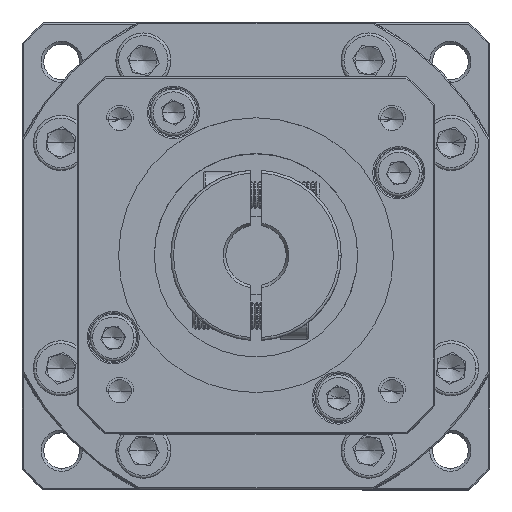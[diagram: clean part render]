
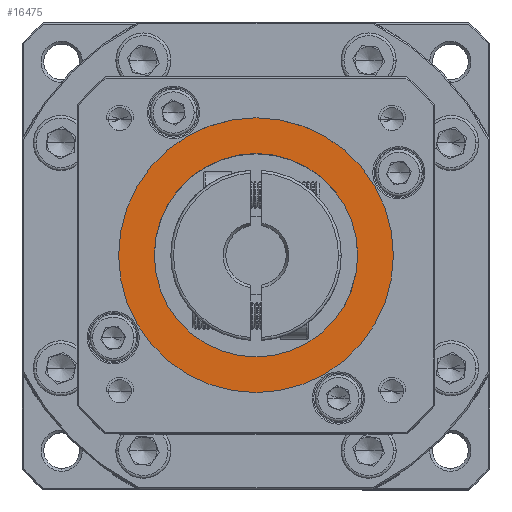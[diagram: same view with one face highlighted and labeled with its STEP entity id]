
A CAD part, top view. The second image highlights one B-rep face of the part: STEP entity #16475.
In plain terms, the highlighted planar face has unit normal (0, 0, 1).
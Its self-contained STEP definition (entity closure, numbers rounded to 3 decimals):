
#890 = AXIS2_PLACEMENT_3D ( 'NONE', #92576, #20770, #93000 ) ;
#4898 = DIRECTION ( 'NONE',  ( 1., 0., 0. ) ) ;
#5922 = CARTESIAN_POINT ( 'NONE',  ( -48.917, 52.772, 13.599 ) ) ;
#12820 = EDGE_LOOP ( 'NONE', ( #55420, #103062 ) ) ;
#16475 = ADVANCED_FACE ( 'NONE', ( #118028, #87054 ), #43327, .T. ) ;
#16859 = EDGE_CURVE ( 'NONE', #111793, #29594, #88386, .T. ) ;
#20770 = DIRECTION ( 'NONE',  ( 0., 0., -1. ) ) ;
#20876 = EDGE_CURVE ( 'NONE', #128805, #38441, #131165, .T. ) ;
#20923 = CARTESIAN_POINT ( 'NONE',  ( -67.417, 52.772, 13.599 ) ) ;
#23068 = DIRECTION ( 'NONE',  ( 0., 0., -1. ) ) ;
#25110 = AXIS2_PLACEMENT_3D ( 'NONE', #57009, #99871, #45572 ) ;
#29594 = VERTEX_POINT ( 'NONE', #5922 ) ;
#32313 = DIRECTION ( 'NONE',  ( 0., 0., 1. ) ) ;
#34771 = AXIS2_PLACEMENT_3D ( 'NONE', #85753, #23068, #55113 ) ;
#38441 = VERTEX_POINT ( 'NONE', #69907 ) ;
#43327 = PLANE ( 'NONE',  #68536 ) ;
#45572 = DIRECTION ( 'NONE',  ( 1., 0., 0. ) ) ;
#52191 = CARTESIAN_POINT ( 'NONE',  ( -85.917, 52.772, 13.599 ) ) ;
#55113 = DIRECTION ( 'NONE',  ( 1., 0., 0. ) ) ;
#55420 = ORIENTED_EDGE ( 'NONE', *, *, #130168, .T. ) ;
#57009 = CARTESIAN_POINT ( 'NONE',  ( -67.417, 52.772, 13.599 ) ) ;
#59589 = CIRCLE ( 'NONE', #34771, 18.5 ) ;
#66468 = ORIENTED_EDGE ( 'NONE', *, *, #20876, .T. ) ;
#66477 = EDGE_LOOP ( 'NONE', ( #94706, #66468 ) ) ;
#67586 = DIRECTION ( 'NONE',  ( 0., 0., 1. ) ) ;
#67820 = EDGE_CURVE ( 'NONE', #38441, #128805, #124635, .T. ) ;
#68536 = AXIS2_PLACEMENT_3D ( 'NONE', #20923, #32313, #74062 ) ;
#69907 = CARTESIAN_POINT ( 'NONE',  ( -42.417, 52.772, 13.599 ) ) ;
#74062 = DIRECTION ( 'NONE',  ( 1., 0., 0. ) ) ;
#85753 = CARTESIAN_POINT ( 'NONE',  ( -67.417, 52.772, 13.599 ) ) ;
#86170 = AXIS2_PLACEMENT_3D ( 'NONE', #130073, #67586, #4898 ) ;
#87054 = FACE_BOUND ( 'NONE', #12820, .T. ) ;
#88386 = CIRCLE ( 'NONE', #890, 18.5 ) ;
#92576 = CARTESIAN_POINT ( 'NONE',  ( -67.417, 52.772, 13.599 ) ) ;
#93000 = DIRECTION ( 'NONE',  ( 1., 0., 0. ) ) ;
#94706 = ORIENTED_EDGE ( 'NONE', *, *, #67820, .T. ) ;
#99871 = DIRECTION ( 'NONE',  ( 0., 0., 1. ) ) ;
#103062 = ORIENTED_EDGE ( 'NONE', *, *, #16859, .T. ) ;
#111793 = VERTEX_POINT ( 'NONE', #52191 ) ;
#117173 = CARTESIAN_POINT ( 'NONE',  ( -92.417, 52.772, 13.599 ) ) ;
#118028 = FACE_OUTER_BOUND ( 'NONE', #66477, .T. ) ;
#124635 = CIRCLE ( 'NONE', #86170, 25. ) ;
#128805 = VERTEX_POINT ( 'NONE', #117173 ) ;
#130073 = CARTESIAN_POINT ( 'NONE',  ( -67.417, 52.772, 13.599 ) ) ;
#130168 = EDGE_CURVE ( 'NONE', #29594, #111793, #59589, .T. ) ;
#131165 = CIRCLE ( 'NONE', #25110, 25. ) ;
